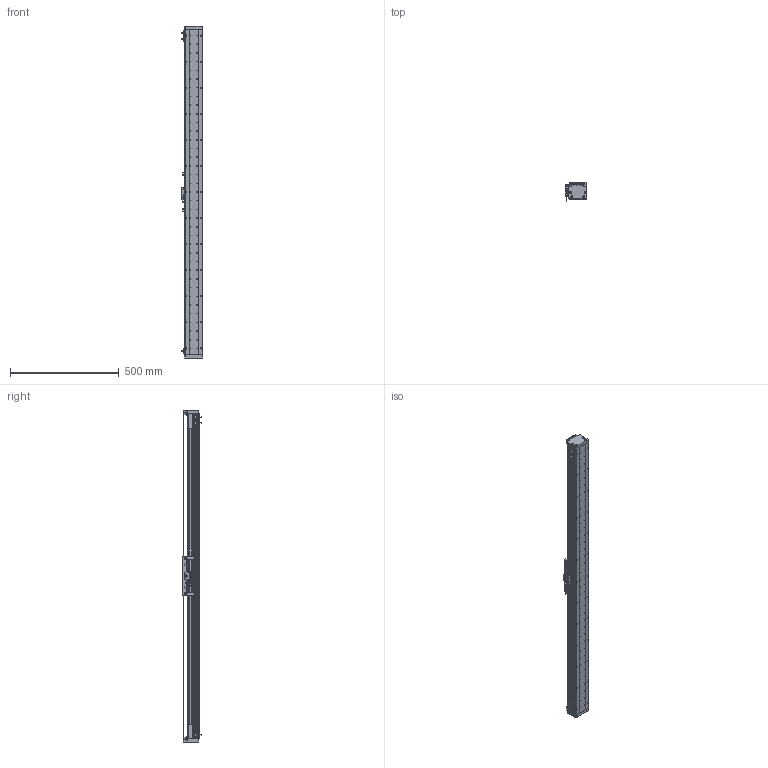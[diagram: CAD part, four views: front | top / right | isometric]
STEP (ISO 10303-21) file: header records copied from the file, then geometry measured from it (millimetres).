
FILE_DESCRIPTION (( 'STEP AP203' ), '1' );
FILE_NAME ('DA-A82-B2-T1280-C010-0.2 眻盄萇儂.STEP', '2025-08-13T03:09:26', ( '' ), ( '' ), 'SwSTEP 2.0', 'SolidWorks 2019', '' );
FILE_SCHEMA (( 'CONFIG_CONTROL_DESIGN' ));
Length unit declared in the file: millimetre
Products named in the file (23): ｸｴｼ BKM02-W040-C1-TP-DA-3.0 ﾖｱﾏﾟｵ扈巐ｯﾗﾓ^DA-A82-B2-T-C010-0.2; 复件 复件 17517-0000-004-00  钢带压块^DA-A82-B2-T-C010-0.2(默认); 葩璃 PM-T45^DA-A82-B2-T-C010-0.2; 葩璃 葩璃 17517-0000-002-00 傷啣^DA-A82-B2-T-C010-0.2; AU82-HT-M-00 賑雄怢啣; 葩璃 鞠褒情蹟譫 M3^DA-A82-B2-T-C010-0.2; 复件 DA95-B2-GT-00 滑块钢轨^AU82-M-00 一体化滑动台板; 葩璃 DA82-B2-DP-00 結え^AU82-M 幗紩賑怢; 复件 复件 17517-0000-003-00 钢带拉块^DA-A82-B2-T-C010-0.2; 复件 纯铜油杯 6x6mm^AU82-M 滚珠滑台; 葩璃 BKM01-W040-TRL^DA-A82-B2-T-C010-0.2; DA-A60-GYP-DMT-00 光电感应片^DA-A82-B2-T-C010-0.2(默认); IU-AU82-L 菁釱絳寢; 葩璃 DMT-010 1米m 0.2M^DA-A82-B2-T-C010-0.2; 复件 复件 复件 DA82 钢带盖板^DA-A82-B2-T-C010-0.2(默认); 复件 复件 DA82-XJ-00 缓冲橡胶^DA-A82-B2-T-C010-0.2; 葩璃 XD-U-02  棠掑喜^DA-A82-B2-T-C010-0.2; AU82-M-00 珨极趙賑雄怢啣; 复件 DA95-GT-T-00 底座钢轨^IU-AU82-L 底座导轨; 葩璃 DA60-DMT-DTJ-00 黍杅芛盓殤^DA-A82-B2-T-C010-0.2; IU-AU82-L-00 菁釱(L1500); DA-A82-B2-T1280-C010-0.2 眻盄萇儂; AU82-M 幗紩賑怢
Assembly tree (40 placements, depth 4):
  DA-A82-B2-T1280-C010-0.2 眻盄萇儂
    IU-AU82-L 菁釱絳寢
      IU-AU82-L-00 菁釱(L1500)
      复件 DA95-GT-T-00 底座钢轨^IU-AU82-L 底座导轨  x2
    AU82-M 幗紩賑怢
      AU82-M-00 珨极趙賑雄怢啣
        AU82-HT-M-00 賑雄怢啣
        复件 DA95-B2-GT-00 滑块钢轨^AU82-M-00 一体化滑动台板  x4
      葩璃 DA82-B2-DP-00 結え^AU82-M 幗紩賑怢  x2
      复件 纯铜油杯 6x6mm^AU82-M 滚珠滑台  x2
    葩璃 DA60-DMT-DTJ-00 黍杅芛盓殤^DA-A82-B2-T-C010-0.2
    葩璃 DMT-010 1米m 0.2M^DA-A82-B2-T-C010-0.2
    DA-A60-GYP-DMT-00 光电感应片^DA-A82-B2-T-C010-0.2(默认)  x2
    ｸｴｼ BKM02-W040-C1-TP-DA-3.0 ﾖｱﾏﾟｵ扈巐ｯﾗﾓ^DA-A82-B2-T-C010-0.2
    复件 复件 17517-0000-003-00 钢带拉块^DA-A82-B2-T-C010-0.2  x2
    复件 复件 DA82-XJ-00 缓冲橡胶^DA-A82-B2-T-C010-0.2  x2
    复件 复件 17517-0000-004-00  钢带压块^DA-A82-B2-T-C010-0.2(默认)  x2
    葩璃 葩璃 17517-0000-002-00 傷啣^DA-A82-B2-T-C010-0.2  x2
    复件 复件 复件 DA82 钢带盖板^DA-A82-B2-T-C010-0.2(默认)
    葩璃 BKM01-W040-TRL^DA-A82-B2-T-C010-0.2
    葩璃 PM-T45^DA-A82-B2-T-C010-0.2  x3
    葩璃 XD-U-02  棠掑喜^DA-A82-B2-T-C010-0.2
    葩璃 鞠褒情蹟譫 M3^DA-A82-B2-T-C010-0.2  x6
Bounding box: 98.95 x 87.2 x 1528 mm (x, y, z)
Volume: 4443132.3 mm3; surface area: 1345968.2 mm2
Topology: 44 solids, 68 shells, 2363 faces, 6248 edges, 3938 vertices
Faces by surface type: cylinder 1153, plane 920, cone 272, bspline 8, torus 8, sphere 2
Entity records: 65101 total; most frequent: CARTESIAN_POINT 14719, DIRECTION 10183, ORIENTED_EDGE 9600, EDGE_CURVE 4800, AXIS2_PLACEMENT_3D 3897, VERTEX_POINT 3122, EDGE_LOOP 2442, LINE 2389
